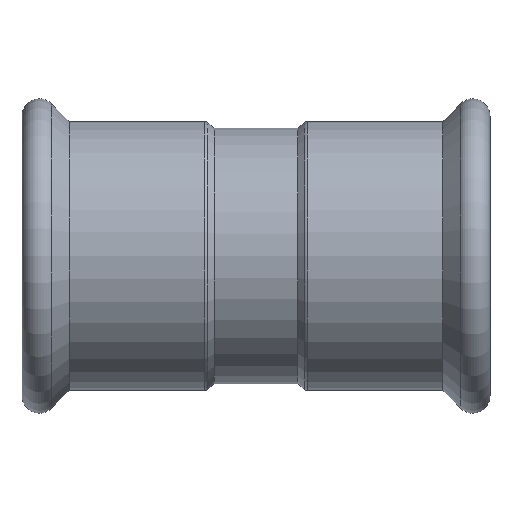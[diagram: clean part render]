
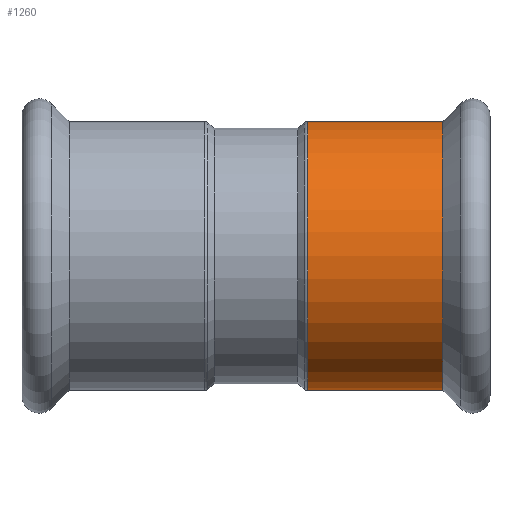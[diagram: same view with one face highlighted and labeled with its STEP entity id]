
A CAD part, top view. The second image highlights one B-rep face of the part: STEP entity #1260.
In plain terms, the highlighted cylindrical face has radius 46.85 mm (diameter 93.7 mm), a partial arc.
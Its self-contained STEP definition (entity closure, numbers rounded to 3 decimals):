
#850=CARTESIAN_POINT('',(-60.44,0.,0.));
#860=DIRECTION('',(1.,0.,0.));
#870=DIRECTION('',(0.,-1.,0.));
#880=AXIS2_PLACEMENT_3D('',#850,#860,#870);
#890=CYLINDRICAL_SURFACE('',#880,46.85);
#900=CARTESIAN_POINT('',(-60.44,-46.85,0.));
#910=DIRECTION('',(1.,0.,0.));
#920=VECTOR('',#910,1.);
#930=LINE('',#900,#920);
#940=CARTESIAN_POINT('',(-72.615,-46.85,0.));
#950=VERTEX_POINT('',#940);
#960=CARTESIAN_POINT('',(-25.588,-46.85,0.));
#970=VERTEX_POINT('',#960);
#980=EDGE_CURVE('',#950,#970,#930,.T.);
#990=ORIENTED_EDGE('',*,*,#980,.T.);
#1000=CARTESIAN_POINT('',(-72.615,0.,0.));
#1010=DIRECTION('',(-1.,0.,0.));
#1020=DIRECTION('',(0.,-1.,0.));
#1030=AXIS2_PLACEMENT_3D('',#1000,#1010,#1020);
#1040=CIRCLE('',#1030,46.85);
#1050=CARTESIAN_POINT('',(-72.615,46.85,0.)
);
#1060=VERTEX_POINT('',#1050);
#1070=EDGE_CURVE('',#950,#1060,#1040,.T.);
#1080=ORIENTED_EDGE('',*,*,#1070,.F.);
#1090=CARTESIAN_POINT('',(-60.44,46.85,0.)
);
#1100=DIRECTION('',(1.,0.,0.));
#1110=VECTOR('',#1100,1.);
#1120=LINE('',#1090,#1110);
#1130=CARTESIAN_POINT('',(-25.588,46.85,0.));
#1140=VERTEX_POINT('',#1130);
#1150=EDGE_CURVE('',#1060,#1140,#1120,.T.);
#1160=ORIENTED_EDGE('',*,*,#1150,.F.);
#1170=CARTESIAN_POINT('',(-25.588,0.,0.));
#1180=DIRECTION('',(1.,0.,0.));
#1190=DIRECTION('',(0.,-1.,0.));
#1200=AXIS2_PLACEMENT_3D('',#1170,#1180,#1190);
#1210=CIRCLE('',#1200,46.85);
#1220=EDGE_CURVE('',#1140,#970,#1210,.T.);
#1230=ORIENTED_EDGE('',*,*,#1220,.F.);
#1240=EDGE_LOOP('',(#1230,#1160,#1080,#990));
#1250=FACE_OUTER_BOUND('',#1240,.T.);
#1260=ADVANCED_FACE('',(#1250),#890,.T.);
